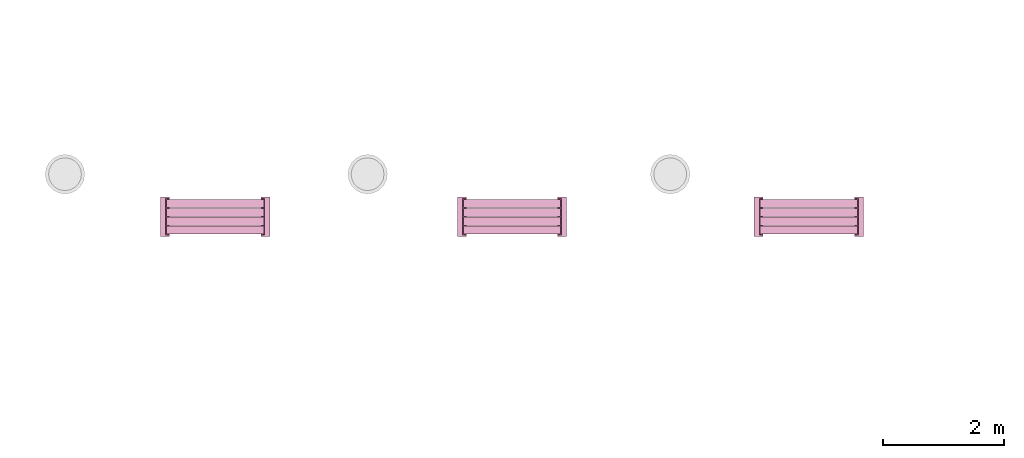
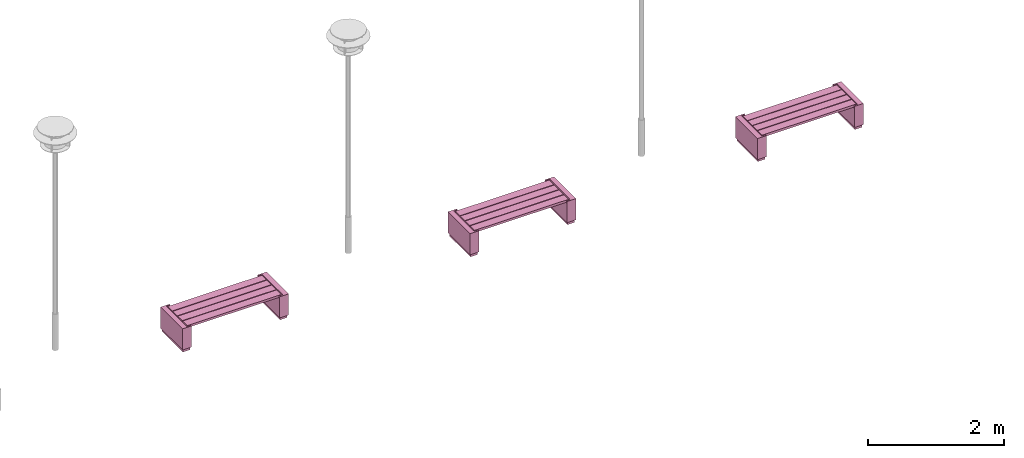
# One storey, part 8 of 8: 3 furnishings.
"""IFC2X3 building model written with IfcOpenShell, lengths in millimetres."""

import ifcopenshell
import ifcopenshell.guid

model = None  # the IFC model being written
_history = None  # IfcOwnerHistory: only IFC2X3 demands one
_inside = {}  # id of a spatial element -> (the spatial element, [elements in it])
_under = {}  # id of a project, library or spatial element -> (it, [spatial elements below it])
_declared = {}  # id of a project -> (the project, [libraries it declares])
_typed = {}  # id of a type object -> (the type object, [elements of that type])
_made_of = {}  # id of a material, layer set ... -> (it, [elements and type objects made of it])


def new_model(schema):
    """Start an empty IFC model of exactly this schema.

    Asked for "IFC4X3", IfcOpenShell would pick the latest addendum, in which some entities
    have other attributes; the version numbers below select the first issue.
    IFC2X3 requires an IfcOwnerHistory on every rooted entity: one is made here for all.
    """
    global model, _history
    if schema == "IFC4X3":
        model = ifcopenshell.file(schema_version=(4, 3, 0, 0))
    else:
        model = ifcopenshell.file(schema=schema)
    _inside.clear()
    _under.clear()
    _declared.clear()
    _typed.clear()
    _made_of.clear()
    _history = None
    if model.schema == "IFC2X3":
        org = make("IfcOrganization", Name="unknown")
        user = make(
            "IfcPersonAndOrganization",
            ThePerson=make("IfcPerson", FamilyName="unknown"),
            TheOrganization=org,
        )
        app = make(
            "IfcApplication",
            ApplicationDeveloper=org,
            Version="unknown",
            ApplicationFullName="unknown",
            ApplicationIdentifier="unknown",
        )
        _history = make(
            "IfcOwnerHistory",
            OwningUser=user,
            OwningApplication=app,
            ChangeAction="ADDED",
            CreationDate=0,
        )
    return model


def make(cls, **values):
    """One entity of the class cls with the attributes given. An attribute that is None is left unset."""
    return model.create_entity(
        cls, **{name: value for name, value in values.items() if value is not None}
    )


def entity(cls, *values):
    """Any entity or typed value of the class cls, its attributes in the order of the schema. None: left unset."""
    e = model.create_entity(cls)
    for i, value in enumerate(values):
        if value is not None:
            e[i] = value
    return e


def rooted(cls, **values):
    """An entity with a GlobalId (a new one), such as an element, a storey or a relation."""
    return make(cls, GlobalId=ifcopenshell.guid.new(), OwnerHistory=_history, **values)


def si_unit(unit_type, name, prefix=None):
    """IfcSIUnit, for example si_unit("LENGTHUNIT", "METRE", prefix="MILLI")."""
    return make("IfcSIUnit", UnitType=unit_type, Prefix=prefix, Name=name)


def converted_unit(unit_type, name, factor, base, dimensions=None, offset=None):
    """IfcConversionBasedUnit, such as the inch: factor (a typed value) times the base unit."""
    return make(
        "IfcConversionBasedUnit"
        if offset is None
        else "IfcConversionBasedUnitWithOffset",
        ConversionOffset=offset,
        Dimensions=None
        if dimensions is None
        else entity("IfcDimensionalExponents", *dimensions),
        UnitType=unit_type,
        Name=name,
        ConversionFactor=make(
            "IfcMeasureWithUnit", ValueComponent=factor, UnitComponent=base
        ),
    )


def derived_unit(unit_type, elements):
    """IfcDerivedUnit: a product of units, each with its exponent."""
    return make(
        "IfcDerivedUnit",
        Elements=[
            make("IfcDerivedUnitElement", Unit=unit, Exponent=power)
            for unit, power in elements
        ],
        UnitType=unit_type,
    )


def assignment(units):
    """IfcUnitAssignment: the units of a project."""
    return None if units is None else make("IfcUnitAssignment", Units=units)


def point(xyz):
    """IfcCartesianPoint."""
    return None if xyz is None else make("IfcCartesianPoint", Coordinates=xyz)


def direction(xyz):
    """IfcDirection."""
    return None if xyz is None else make("IfcDirection", DirectionRatios=xyz)


def frame(location, z_axis=None, x_axis=None):
    """IfcAxis2Placement3D, a coordinate frame: its origin and axes. An axis left out is left unset."""
    return make(
        "IfcAxis2Placement3D",
        Location=point(location),
        Axis=direction(z_axis),
        RefDirection=direction(x_axis),
    )


def frame_2d(location, x_axis=None):
    """IfcAxis2Placement2D, a coordinate frame in the plane: its origin and x axis."""
    return make(
        "IfcAxis2Placement2D", Location=point(location), RefDirection=direction(x_axis)
    )


def origin():
    """The frame at (0, 0, 0) with its axes left unset."""
    return frame((0.0, 0.0, 0.0))


def place(relative_to, where):
    """IfcLocalPlacement: puts the frame where relative to a parent placement (None: the world)."""
    return make(
        "IfcLocalPlacement", PlacementRelTo=relative_to, RelativePlacement=where
    )


def context(
    kind, dimensions, precision=None, world=None, true_north=None, identifier=None
):
    """IfcGeometricRepresentationContext, for example the 3D "Model" context."""
    return make(
        "IfcGeometricRepresentationContext",
        ContextIdentifier=identifier,
        ContextType=kind,
        CoordinateSpaceDimension=dimensions,
        Precision=precision,
        WorldCoordinateSystem=world,
        TrueNorth=true_north,
    )


def subcontext(parent, identifier, kind, view, scale=None):
    """IfcGeometricRepresentationSubContext, for example "Body" below "Model"."""
    return make(
        "IfcGeometricRepresentationSubContext",
        ContextIdentifier=identifier,
        ContextType=kind,
        ParentContext=parent,
        TargetScale=scale,
        TargetView=view,
    )


def project(units=None, contexts=None):
    """IfcProject with its units and contexts."""
    return rooted(
        "IfcProject",
        Name="project",
        RepresentationContexts=contexts,
        UnitsInContext=assignment(units),
    )


def spatial(cls, under=None, at=None, **own):
    """A site, building, storey or space (cls), placed at a placement, below another one or the project."""
    s = rooted(cls, ObjectPlacement=at, **own)
    if under is not None:
        _under.setdefault(under.id(), (under, []))[1].append(s)
    return s


def polyline(points):
    """IfcPolyline through the points."""
    return make("IfcPolyline", Points=[point(p) for p in points])


def profile(cls, at=None, kind="AREA", **sizes):
    """A parametric profile (cls). Its sizes go by their IFC names, for example OverallWidth=200.0."""
    return make(cls, ProfileType=kind, Position=at, **sizes)


def rectangle(**sizes):
    """IfcRectangleProfileDef."""
    return profile("IfcRectangleProfileDef", **sizes)


def outline(outer, holes=None, kind="AREA"):
    """IfcArbitraryClosedProfileDef: a profile drawn as a closed curve; with holes, ...WithVoids."""
    if holes is None:
        return make("IfcArbitraryClosedProfileDef", ProfileType=kind, OuterCurve=outer)
    return make(
        "IfcArbitraryProfileDefWithVoids",
        ProfileType=kind,
        OuterCurve=outer,
        InnerCurves=holes,
    )


def extrude(swept, where, along, depth):
    """IfcExtrudedAreaSolid: the profile swept, set in the frame where, extruded along a direction by depth."""
    return make(
        "IfcExtrudedAreaSolid",
        SweptArea=swept,
        Position=where,
        ExtrudedDirection=direction(along),
        Depth=depth,
    )


def shape(context_of_items, identifier, shape_type, items):
    """IfcShapeRepresentation: the items that make up one representation, for example the "Body"."""
    return make(
        "IfcShapeRepresentation",
        ContextOfItems=context_of_items,
        RepresentationIdentifier=identifier,
        RepresentationType=shape_type,
        Items=items,
    )


def source(mapping_origin, context_of_items, identifier, shape_type, items):
    """IfcRepresentationMap: a shape defined once, which mapped items show again and again."""
    return make(
        "IfcRepresentationMap",
        MappingOrigin=mapping_origin,
        MappedRepresentation=shape(context_of_items, identifier, shape_type, items),
    )


def transform(
    local_origin,
    x_axis=None,
    y_axis=None,
    z_axis=None,
    scale=None,
    scale2=None,
    scale3=None,
    uniform=True,
):
    """IfcCartesianTransformationOperator3D, or its non-uniform kind. x_axis, y_axis, z_axis: its Axis1, 2, 3."""
    if uniform:
        return make(
            "IfcCartesianTransformationOperator3D",
            Axis1=direction(x_axis),
            Axis2=direction(y_axis),
            LocalOrigin=point(local_origin),
            Scale=scale,
            Axis3=direction(z_axis),
        )
    return make(
        "IfcCartesianTransformationOperator3DnonUniform",
        Axis1=direction(x_axis),
        Axis2=direction(y_axis),
        LocalOrigin=point(local_origin),
        Scale=scale,
        Axis3=direction(z_axis),
        Scale2=scale2,
        Scale3=scale3,
    )


def mapped(mapping_source, mapping_target):
    """IfcMappedItem: shows the shape of a source again, moved by a transform."""
    return make(
        "IfcMappedItem", MappingSource=mapping_source, MappingTarget=mapping_target
    )


def material(Name=None, Category=None):
    """IfcMaterial."""
    return make("IfcMaterial", Name=Name, Category=Category)


def material_list(materials):
    """IfcMaterialList."""
    return make("IfcMaterialList", Materials=materials)


def made_of(thing, what):
    """Note that an element or type object is made of a material, layer set ...; save() writes the relation."""
    if what is not None:
        _made_of.setdefault(what.id(), (what, []))[1].append(thing)
    return thing


def type_object(cls, material=None, **own):
    """A type object (cls), such as IfcWallType, which elements share."""
    return made_of(rooted(cls, **own), material)


def type_shapes(of_type, sources):
    """Give a type object the sources (RepresentationMaps) that its elements show as mapped items."""
    of_type.RepresentationMaps = sources


def element(
    cls,
    number,
    at=None,
    inside=None,
    cuts=None,
    type_object=None,
    material=None,
    context=None,
    identifier="Body",
    shape_type=None,
    held_by="IfcProductDefinitionShape",
    body=None,
    shapes=None,
    **own,
):
    """One element of the class cls, such as IfcWall. Its Tag is "e" and its number.

    at: its placement. inside: the storey or other place that contains it. cuts: it is an
    opening in that element (IfcRelVoidsElement). A single representation is given by context,
    identifier, shape_type and body (its items); several are given by shapes. held_by: the class
    of the entity that holds the representations. save() writes the other relations.
    """
    e = rooted(cls, Tag="e%d" % number, ObjectPlacement=at, **own)
    if body is not None:
        shapes = [shape(context, identifier, shape_type, body)]
    if shapes is not None:
        e.Representation = make(held_by, Representations=shapes)
    if inside is not None:
        _inside.setdefault(inside.id(), (inside, []))[1].append(e)
    if cuts is not None:
        rooted(
            "IfcRelVoidsElement", RelatingBuildingElement=cuts, RelatedOpeningElement=e
        )
    if type_object is not None:
        _typed.setdefault(type_object.id(), (type_object, []))[1].append(e)
    return made_of(e, material)


def aggregate(whole, parts):
    """IfcRelAggregates: a whole, such as a stair, and the parts it consists of."""
    return rooted("IfcRelAggregates", RelatingObject=whole, RelatedObjects=parts)


def save(model, path):
    """Write the relations noted so far, then the file.

    IfcRelAggregates (storeys below a building ...), IfcRelContainedInSpatialStructure (elements
    in a storey), IfcRelDefinesByType, IfcRelAssociatesMaterial and IfcRelDeclares: one each for
    every whole, place, type object, material and project.
    """
    for whole, parts in _under.values():
        aggregate(whole, parts)
    for where, things in _inside.values():
        rooted(
            "IfcRelContainedInSpatialStructure",
            RelatedElements=things,
            RelatingStructure=where,
        )
    for kind, things in _typed.values():
        rooted("IfcRelDefinesByType", RelatedObjects=things, RelatingType=kind)
    for what, things in _made_of.values():
        rooted("IfcRelAssociatesMaterial", RelatedObjects=things, RelatingMaterial=what)
    for by, libraries in _declared.values():
        rooted("IfcRelDeclares", RelatingContext=by, RelatedDefinitions=libraries)
    model.write(path)


model = new_model("IFC2X3")

# Units and contexts
model_context = context("Model", 3, precision=0.01, world=origin(), true_north=direction((6.12303176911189e-17, 1.0)))
body_context = subcontext(model_context, "Body", "Model", "MODEL_VIEW")
ifc_project = project(units=[si_unit("LENGTHUNIT", "METRE", prefix="MILLI"), si_unit("AREAUNIT", "SQUARE_METRE"), si_unit("VOLUMEUNIT", "CUBIC_METRE"), converted_unit("PLANEANGLEUNIT", "DEGREE", entity("IfcRatioMeasure", 0.0174532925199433), si_unit("PLANEANGLEUNIT", "RADIAN"), dimensions=[0, 0, 0, 0, 0, 0, 0]), si_unit("MASSUNIT", "GRAM", prefix="KILO"), derived_unit("MASSDENSITYUNIT", [(si_unit("MASSUNIT", "GRAM", prefix="KILO"), 1), (si_unit("LENGTHUNIT", "METRE"), -3)]), si_unit("TIMEUNIT", "SECOND"), si_unit("FREQUENCYUNIT", "HERTZ"), si_unit("THERMODYNAMICTEMPERATUREUNIT", "DEGREE_CELSIUS"), derived_unit("THERMALTRANSMITTANCEUNIT", [(si_unit("MASSUNIT", "GRAM", prefix="KILO"), 1), (si_unit("THERMODYNAMICTEMPERATUREUNIT", "KELVIN"), -1), (si_unit("TIMEUNIT", "SECOND"), -3)]), derived_unit("VOLUMETRICFLOWRATEUNIT", [(si_unit("LENGTHUNIT", "METRE"), 3), (si_unit("TIMEUNIT", "SECOND"), -1)]), si_unit("ELECTRICCURRENTUNIT", "AMPERE"), si_unit("ELECTRICVOLTAGEUNIT", "VOLT"), si_unit("POWERUNIT", "WATT"), si_unit("FORCEUNIT", "NEWTON", prefix="KILO"), si_unit("ILLUMINANCEUNIT", "LUX"), si_unit("LUMINOUSFLUXUNIT", "LUMEN"), si_unit("LUMINOUSINTENSITYUNIT", "CANDELA"), derived_unit("USERDEFINED", [(si_unit("MASSUNIT", "GRAM", prefix="KILO"), -1), (si_unit("LENGTHUNIT", "METRE"), -2), (si_unit("TIMEUNIT", "SECOND"), 3), (si_unit("LUMINOUSFLUXUNIT", "LUMEN"), 1)]), derived_unit("LINEARVELOCITYUNIT", [(si_unit("LENGTHUNIT", "METRE"), 1), (si_unit("TIMEUNIT", "SECOND"), -1)]), si_unit("PRESSUREUNIT", "PASCAL"), derived_unit("USERDEFINED", [(si_unit("LENGTHUNIT", "METRE"), -2), (si_unit("MASSUNIT", "GRAM", prefix="KILO"), 1), (si_unit("TIMEUNIT", "SECOND"), -2)])], contexts=[model_context])

# Site, building, storey
site_placement = place(None, origin())
site = spatial("IfcSite", under=ifc_project, at=site_placement, Name="Default", CompositionType="ELEMENT")
building_placement = place(site_placement, origin())
building = spatial("IfcBuilding", under=site, at=building_placement, CompositionType="ELEMENT")
storey_placement = place(building_placement, origin())
storey = spatial("IfcBuildingStorey", under=building, at=storey_placement, Name="Ground Floor", CompositionType="ELEMENT", Elevation=0.0)

# Furnishings
ifc_material_1 = material(Name="Wood - Pine Grained Horizontal")
ifc_material_2 = material(Name="Paint - Titanium White")
ifc_material_list_1 = material_list([ifc_material_1, ifc_material_2])
ifc_material_list_2 = material_list([ifc_material_1, ifc_material_2])
furniture_type_1 = type_object("IfcFurnitureType", Name="FU - 036", material=ifc_material_list_2)
shared_shape_1 = source(origin(), body_context, "Body", "SweptSolid", [
    extrude(rectangle(XDim=135.000000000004, YDim=1600.0, at=frame_2d((0.0, -8.69704308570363e-12), x_axis=(1.0, 0.0))), frame((98108.8569215, 57176.7379796, 390.0), z_axis=(0.0, 0.0, 1.0), x_axis=(0.0, -1.0, 0.0)), (0.0, 0.0, 1.0), 40.0),
    extrude(rectangle(XDim=134.999999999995, YDim=1600.0, at=frame_2d((-4.32720526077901e-12, -8.69704308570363e-12), x_axis=(1.0, 0.0))), frame((98108.8569215, 57031.7379796, 390.0), z_axis=(0.0, 0.0, 1.0), x_axis=(0.0, -1.0, 0.0)), (0.0, 0.0, 1.0), 40.0),
    extrude(rectangle(XDim=134.999999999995, YDim=1600.0, at=frame_2d((-4.32720526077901e-12, -8.69704308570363e-12), x_axis=(1.0, 0.0))), frame((98108.8569215, 56886.7379796, 390.0), z_axis=(0.0, 0.0, 1.0), x_axis=(0.0, -1.0, 0.0)), (0.0, 0.0, 1.0), 40.0),
    extrude(rectangle(XDim=135.000000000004, YDim=1600.0, at=frame_2d((8.66151594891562e-12, -8.69704308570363e-12), x_axis=(1.0, 0.0))), frame((98108.8569215, 56741.7379796, 390.0), z_axis=(0.0, 0.0, 1.0), x_axis=(0.0, -1.0, 0.0)), (0.0, 0.0, 1.0), 40.0),
    extrude(outline(polyline([(-53.7500000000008, -325.0), (96.2499999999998, -325.0), (96.2499999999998, 325.0), (-53.7500000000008, 325.0), (-53.7500000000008, 300.0), (11.2500000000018, 300.0), (11.2500000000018, -300.0), (-53.7500000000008, -300.0), (-53.7500000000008, -325.0)])), frame((98912.6069215, 56959.2379796, 390.0)), (0.0, 0.0, 1.0), 40.0),
    extrude(rectangle(XDim=150.000000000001, YDim=650.0, at=frame_2d((0.0, 4.34852154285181e-12), x_axis=(1.0, 0.0))), frame((98933.8569215, 56959.2379796, 50.0)), (0.0, 0.0, 1.0), 340.0),
    extrude(rectangle(XDim=120.000000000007, YDim=620.000000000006, at=frame_2d((0.0, -4.34852154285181e-12), x_axis=(1.0, 0.0))), frame((98933.8569215, 56959.2379796, 0.0)), (0.0, 0.0, 1.0), 50.0),
    extrude(outline(polyline([(-325.0, -96.2499999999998), (325.0, -96.2499999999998), (325.0, 53.7500000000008), (300.0, 53.7500000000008), (300.0, -11.2500000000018), (-300.0, -11.2500000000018), (-300.0, 53.7500000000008), (-325.0, 53.7500000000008), (-325.0, -96.2499999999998)])), frame((97305.1069215, 56959.2379796, 390.0), z_axis=(0.0, 0.0, 1.0), x_axis=(0.0, -1.0, 0.0)), (0.0, 0.0, 1.0), 40.0),
    extrude(rectangle(XDim=650.0, YDim=150.000000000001, at=frame_2d((4.34852154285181e-12, 0.0), x_axis=(1.0, 0.0))), frame((97283.8569215, 56959.2379796, 50.0), z_axis=(0.0, 0.0, 1.0), x_axis=(0.0, -1.0, 0.0)), (0.0, 0.0, 1.0), 340.0),
    extrude(rectangle(XDim=620.000000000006, YDim=120.000000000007, at=frame_2d((4.34852154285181e-12, 0.0), x_axis=(1.0, 0.0))), frame((97283.8569215, 56959.2379796, 0.0), z_axis=(0.0, 0.0, 1.0), x_axis=(0.0, -1.0, 0.0)), (0.0, 0.0, 1.0), 50.0),
])
type_shapes(furniture_type_1, [shared_shape_1])
furnishing_1_placement = place(storey_placement, origin())
element("IfcFurnishingElement", 1, at=furnishing_1_placement, inside=storey, type_object=furniture_type_1, material=ifc_material_list_1, Name="FU - 036 1723160:FU - 036 1723160", ObjectType="FU - 036 1723160:FU - 036 1723160", context=body_context, shape_type="MappedRepresentation", body=[
    mapped(shared_shape_1, transform((0.0, 0.0, 0.0), scale=1.0)),
])
ifc_material_list_3 = material_list([ifc_material_1, ifc_material_2])
ifc_material_list_4 = material_list([ifc_material_1, ifc_material_2])
furniture_type_2 = type_object("IfcFurnitureType", Name="FU - 036", material=ifc_material_list_4)
shared_shape_2 = source(origin(), body_context, "Body", "SweptSolid", [
    extrude(rectangle(XDim=135.000000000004, YDim=1600.0, at=frame_2d((0.0, -8.69704308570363e-12), x_axis=(1.0, 0.0))), frame((93223.1426358, 57176.7379796, 390.0), z_axis=(0.0, 0.0, 1.0), x_axis=(0.0, -1.0, 0.0)), (0.0, 0.0, 1.0), 40.0),
    extrude(rectangle(XDim=134.999999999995, YDim=1600.0, at=frame_2d((-4.32720526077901e-12, -8.69704308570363e-12), x_axis=(1.0, 0.0))), frame((93223.1426358, 57031.7379796, 390.0), z_axis=(0.0, 0.0, 1.0), x_axis=(0.0, -1.0, 0.0)), (0.0, 0.0, 1.0), 40.0),
    extrude(rectangle(XDim=134.999999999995, YDim=1600.0, at=frame_2d((-4.32720526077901e-12, -8.69704308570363e-12), x_axis=(1.0, 0.0))), frame((93223.1426358, 56886.7379796, 390.0), z_axis=(0.0, 0.0, 1.0), x_axis=(0.0, -1.0, 0.0)), (0.0, 0.0, 1.0), 40.0),
    extrude(rectangle(XDim=135.000000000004, YDim=1600.0, at=frame_2d((8.66151594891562e-12, -8.69704308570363e-12), x_axis=(1.0, 0.0))), frame((93223.1426358, 56741.7379796, 390.0), z_axis=(0.0, 0.0, 1.0), x_axis=(0.0, -1.0, 0.0)), (0.0, 0.0, 1.0), 40.0),
    extrude(outline(polyline([(-53.7500000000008, -325.0), (96.2499999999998, -325.0), (96.2499999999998, 325.0), (-53.7500000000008, 325.0), (-53.7500000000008, 300.0), (11.2500000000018, 300.0), (11.2500000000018, -300.0), (-53.7500000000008, -300.0), (-53.7500000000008, -325.0)])), frame((94026.8926358, 56959.2379796, 390.0)), (0.0, 0.0, 1.0), 40.0),
    extrude(rectangle(XDim=150.000000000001, YDim=650.0, at=frame_2d((0.0, 4.34852154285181e-12), x_axis=(1.0, 0.0))), frame((94048.1426358, 56959.2379796, 50.0)), (0.0, 0.0, 1.0), 340.0),
    extrude(rectangle(XDim=119.99999999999, YDim=620.000000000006, at=frame_2d((-8.66506866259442e-12, -4.34852154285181e-12), x_axis=(1.0, 0.0))), frame((94048.1426358, 56959.2379796, 0.0)), (0.0, 0.0, 1.0), 50.0),
    extrude(outline(polyline([(-325.0, -96.2499999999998), (325.0, -96.2499999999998), (325.0, 53.7500000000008), (300.0, 53.7500000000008), (300.0, -11.2500000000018), (-300.0, -11.2500000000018), (-300.0, 53.7500000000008), (-325.0, 53.7500000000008), (-325.0, -96.2499999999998)])), frame((92419.3926358, 56959.2379796, 390.0), z_axis=(0.0, 0.0, 1.0), x_axis=(0.0, -1.0, 0.0)), (0.0, 0.0, 1.0), 40.0),
    extrude(rectangle(XDim=650.0, YDim=150.000000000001, at=frame_2d((4.34852154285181e-12, 0.0), x_axis=(1.0, 0.0))), frame((92398.1426358, 56959.2379796, 50.0), z_axis=(0.0, 0.0, 1.0), x_axis=(0.0, -1.0, 0.0)), (0.0, 0.0, 1.0), 340.0),
    extrude(rectangle(XDim=620.000000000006, YDim=119.99999999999, at=frame_2d((4.34852154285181e-12, -8.66506866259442e-12), x_axis=(1.0, 0.0))), frame((92398.1426358, 56959.2379796, 0.0), z_axis=(0.0, 0.0, 1.0), x_axis=(0.0, -1.0, 0.0)), (0.0, 0.0, 1.0), 50.0),
])
type_shapes(furniture_type_2, [shared_shape_2])
furnishing_2_placement = place(storey_placement, origin())
element("IfcFurnishingElement", 2, at=furnishing_2_placement, inside=storey, type_object=furniture_type_2, material=ifc_material_list_3, Name="FU - 036 1725155:FU - 036 1725155", ObjectType="FU - 036 1725155:FU - 036 1725155", context=body_context, shape_type="MappedRepresentation", body=[
    mapped(shared_shape_2, transform((0.0, 0.0, 0.0), scale=1.0)),
])
ifc_material_list_5 = material_list([ifc_material_1, ifc_material_2])
ifc_material_list_6 = material_list([ifc_material_1, ifc_material_2])
furniture_type_3 = type_object("IfcFurnitureType", Name="FU - 036", material=ifc_material_list_6)
shared_shape_3 = source(origin(), body_context, "Body", "SweptSolid", [
    extrude(rectangle(XDim=135.000000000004, YDim=1600.0, at=frame_2d((0.0, -8.69704308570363e-12), x_axis=(1.0, 0.0))), frame((88337.4283501, 57176.7379796, 390.0), z_axis=(0.0, 0.0, 1.0), x_axis=(0.0, -1.0, 0.0)), (0.0, 0.0, 1.0), 40.0),
    extrude(rectangle(XDim=134.999999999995, YDim=1600.0, at=frame_2d((-4.32720526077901e-12, -8.69704308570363e-12), x_axis=(1.0, 0.0))), frame((88337.4283501, 57031.7379796, 390.0), z_axis=(0.0, 0.0, 1.0), x_axis=(0.0, -1.0, 0.0)), (0.0, 0.0, 1.0), 40.0),
    extrude(rectangle(XDim=134.999999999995, YDim=1600.0, at=frame_2d((-4.32720526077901e-12, -8.69704308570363e-12), x_axis=(1.0, 0.0))), frame((88337.4283501, 56886.7379796, 390.0), z_axis=(0.0, 0.0, 1.0), x_axis=(0.0, -1.0, 0.0)), (0.0, 0.0, 1.0), 40.0),
    extrude(rectangle(XDim=135.000000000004, YDim=1600.0, at=frame_2d((8.66151594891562e-12, -8.69704308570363e-12), x_axis=(1.0, 0.0))), frame((88337.4283501, 56741.7379796, 390.0), z_axis=(0.0, 0.0, 1.0), x_axis=(0.0, -1.0, 0.0)), (0.0, 0.0, 1.0), 40.0),
    extrude(outline(polyline([(-53.7500000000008, -325.0), (96.2499999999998, -325.0), (96.2499999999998, 325.0), (-53.7500000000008, 325.0), (-53.7500000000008, 300.0), (11.2500000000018, 300.0), (11.2500000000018, -300.0), (-53.7500000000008, -300.0), (-53.7500000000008, -325.0)])), frame((89141.1783501, 56959.2379796, 390.0)), (0.0, 0.0, 1.0), 40.0),
    extrude(rectangle(XDim=150.000000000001, YDim=650.0, at=frame_2d((0.0, 4.34852154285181e-12), x_axis=(1.0, 0.0))), frame((89162.4283501, 56959.2379796, 50.0)), (0.0, 0.0, 1.0), 340.0),
    extrude(rectangle(XDim=120.000000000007, YDim=620.000000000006, at=frame_2d((0.0, -4.34852154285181e-12), x_axis=(1.0, 0.0))), frame((89162.4283501, 56959.2379796, 0.0)), (0.0, 0.0, 1.0), 50.0),
    extrude(outline(polyline([(-325.0, -96.2499999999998), (325.0, -96.2499999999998), (325.0, 53.7500000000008), (300.0, 53.7500000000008), (300.0, -11.2500000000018), (-300.0, -11.2500000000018), (-300.0, 53.7500000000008), (-325.0, 53.7500000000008), (-325.0, -96.2499999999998)])), frame((87533.6783501, 56959.2379796, 390.0), z_axis=(0.0, 0.0, 1.0), x_axis=(0.0, -1.0, 0.0)), (0.0, 0.0, 1.0), 40.0),
    extrude(rectangle(XDim=650.0, YDim=150.000000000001, at=frame_2d((4.34852154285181e-12, 0.0), x_axis=(1.0, 0.0))), frame((87512.4283501, 56959.2379796, 50.0), z_axis=(0.0, 0.0, 1.0), x_axis=(0.0, -1.0, 0.0)), (0.0, 0.0, 1.0), 340.0),
    extrude(rectangle(XDim=620.000000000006, YDim=120.000000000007, at=frame_2d((4.34852154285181e-12, 0.0), x_axis=(1.0, 0.0))), frame((87512.4283501, 56959.2379796, 0.0), z_axis=(0.0, 0.0, 1.0), x_axis=(0.0, -1.0, 0.0)), (0.0, 0.0, 1.0), 50.0),
])
type_shapes(furniture_type_3, [shared_shape_3])
furnishing_3_placement = place(storey_placement, origin())
element("IfcFurnishingElement", 3, at=furnishing_3_placement, inside=storey, type_object=furniture_type_3, material=ifc_material_list_5, Name="FU - 036 1751556:FU - 036 1751556", ObjectType="FU - 036 1751556:FU - 036 1751556", context=body_context, shape_type="MappedRepresentation", body=[
    mapped(shared_shape_3, transform((0.0, 0.0, 0.0), scale=1.0)),
])

save(model, "model.ifc")
